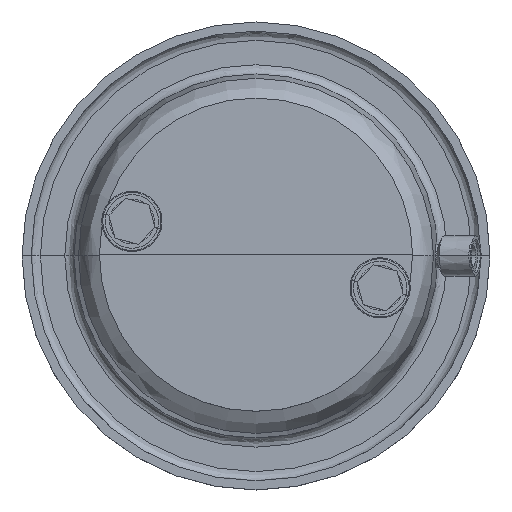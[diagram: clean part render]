
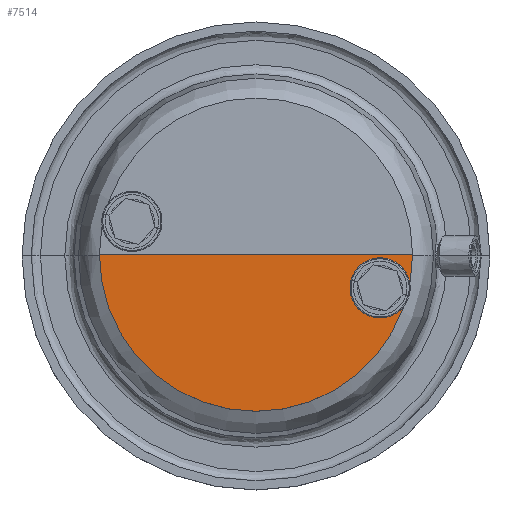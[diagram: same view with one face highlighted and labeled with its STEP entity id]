
A CAD part, top view. The second image highlights one B-rep face of the part: STEP entity #7514.
In plain terms, the highlighted planar face has unit normal (0, 0, 1).
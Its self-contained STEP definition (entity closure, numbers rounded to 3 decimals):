
#525=LINE('',#14494,#893);
#893=VECTOR('',#10075,304.8);
#1514=FACE_OUTER_BOUND('',#2050,.T.);
#2050=EDGE_LOOP('',(#5608,#5609));
#2669=CIRCLE('',#8352,85.362);
#3229=VERTEX_POINT('',#14491);
#3230=VERTEX_POINT('',#14492);
#4027=EDGE_CURVE('',#3230,#3229,#525,.T.);
#4028=EDGE_CURVE('',#3230,#3229,#2669,.T.);
#5608=ORIENTED_EDGE('',*,*,#4028,.T.);
#5609=ORIENTED_EDGE('',*,*,#4027,.F.);
#6620=PLANE('',#8351);
#7514=ADVANCED_FACE('',(#1514),#6620,.F.);
#8351=AXIS2_PLACEMENT_3D('',#14495,#10076,#10077);
#8352=AXIS2_PLACEMENT_3D('',#14496,#10078,#10079);
#10075=DIRECTION('',(1.,0.,0.));
#10076=DIRECTION('center_axis',(0.,0.,-1.));
#10077=DIRECTION('ref_axis',(-1.,0.,0.));
#10078=DIRECTION('center_axis',(0.,0.,1.));
#10079=DIRECTION('ref_axis',(-1.,0.,0.));
#14491=CARTESIAN_POINT('',(85.362,0.,566.029));
#14492=CARTESIAN_POINT('',(-85.362,0.,566.029));
#14494=CARTESIAN_POINT('',(-85.362,0.,566.029));
#14495=CARTESIAN_POINT('Origin',(0.,0.,566.029));
#14496=CARTESIAN_POINT('Origin',(0.,0.,566.029));
